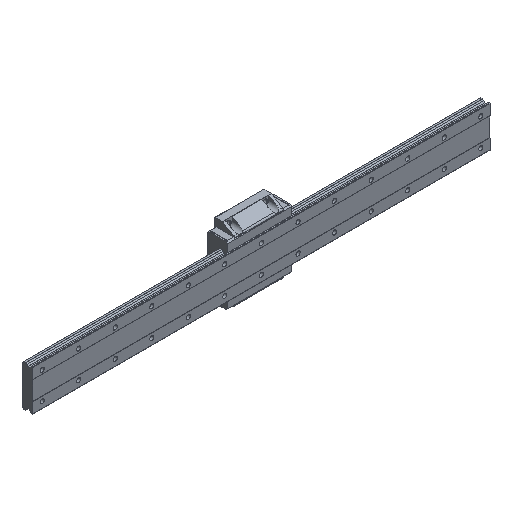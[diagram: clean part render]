
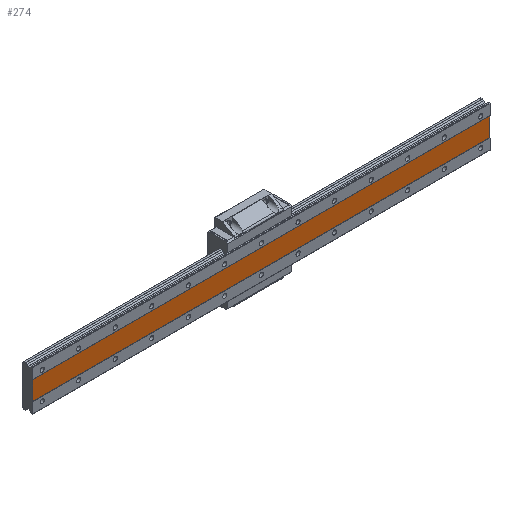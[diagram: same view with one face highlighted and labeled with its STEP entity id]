
A CAD part, isometric view. The second image highlights one B-rep face of the part: STEP entity #274.
In plain terms, the highlighted planar face has unit normal (0, -1, 0).
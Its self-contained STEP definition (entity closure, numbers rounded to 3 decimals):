
#274 = ADVANCED_FACE( '', ( #819 ), #820, .T. );
#819 = FACE_OUTER_BOUND( '', #1567, .T. );
#820 = PLANE( '', #1568 );
#1567 = EDGE_LOOP( '', ( #3083, #3084, #3085, #3086 ) );
#1568 = AXIS2_PLACEMENT_3D( '', #3087, #3088, #3089 );
#3083 = ORIENTED_EDGE( '', *, *, #5016, .T. );
#3084 = ORIENTED_EDGE( '', *, *, #5017, .F. );
#3085 = ORIENTED_EDGE( '', *, *, #5018, .T. );
#3086 = ORIENTED_EDGE( '', *, *, #5014, .T. );
#3087 = CARTESIAN_POINT( '', ( -20., 0.5, -20.55 ) );
#3088 = DIRECTION( '', ( 0., -1., 0. ) );
#3089 = DIRECTION( '', ( 0., 0., -1. ) );
#5014 = EDGE_CURVE( '', #6119, #6117, #6120, .T. );
#5016 = EDGE_CURVE( '', #6117, #6122, #6123, .T. );
#5017 = EDGE_CURVE( '', #6124, #6122, #6125, .T. );
#5018 = EDGE_CURVE( '', #6124, #6119, #6126, .T. );
#6117 = VERTEX_POINT( '', #7676 );
#6119 = VERTEX_POINT( '', #7678 );
#6120 = LINE( '', #7679, #7680 );
#6122 = VERTEX_POINT( '', #7682 );
#6123 = LINE( '', #7683, #7684 );
#6124 = VERTEX_POINT( '', #7685 );
#6125 = LINE( '', #7686, #7687 );
#6126 = LINE( '', #7688, #7689 );
#7676 = CARTESIAN_POINT( '', ( 980., 0.5, -20.55 ) );
#7678 = CARTESIAN_POINT( '', ( -20., 0.5, -20.55 ) );
#7679 = CARTESIAN_POINT( '', ( -20., 0.5, -20.55 ) );
#7680 = VECTOR( '', #9744, 1. );
#7682 = CARTESIAN_POINT( '', ( 980., 0.5, 20.55 ) );
#7683 = CARTESIAN_POINT( '', ( 980., 0.5, 20.55 ) );
#7684 = VECTOR( '', #9748, 1. );
#7685 = CARTESIAN_POINT( '', ( -20., 0.5, 20.55 ) );
#7686 = CARTESIAN_POINT( '', ( -20., 0.5, 20.55 ) );
#7687 = VECTOR( '', #9749, 1. );
#7688 = CARTESIAN_POINT( '', ( -20., 0.5, 20.55 ) );
#7689 = VECTOR( '', #9750, 1. );
#9744 = DIRECTION( '', ( 1., 0., 0. ) );
#9748 = DIRECTION( '', ( 0., 0., 1. ) );
#9749 = DIRECTION( '', ( 1., 0., 0. ) );
#9750 = DIRECTION( '', ( 0., 0., -1. ) );
